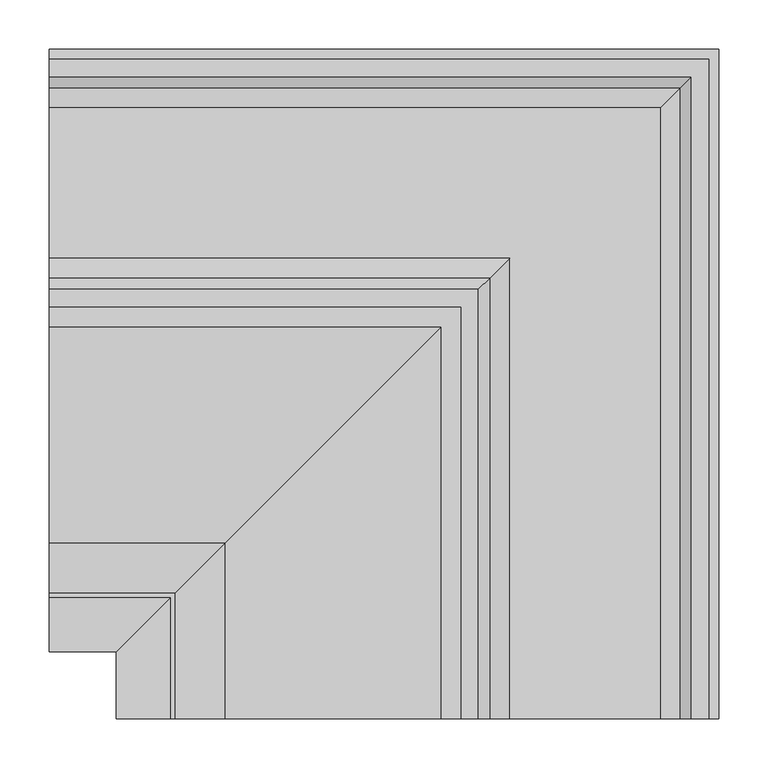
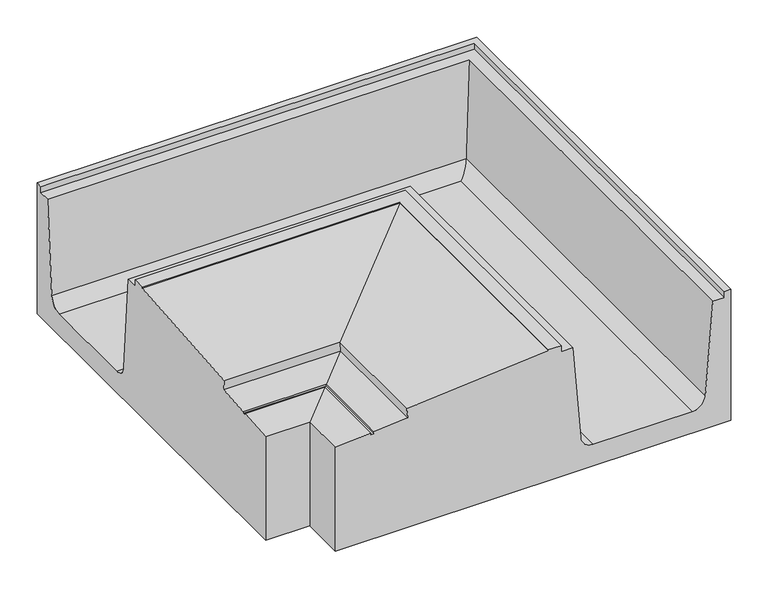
"""IFC4 building model written with IfcOpenShell, lengths in millimetres: proxy geometry, ROSA GRES_RS 911 Esquina Ángulo Interior : Bloque RS 911_Esquina Ángulo Interior."""

from ifc_helpers import new_model, si_unit, frame, origin, place, context, project, spatial, polyline, circle_curve, ellipse_curve, source, transform, mapped, element, save
from ifc_brep_helpers import plane_surface, revolved_surface, advanced_brep


def generic_models_6b054df1(model_context):
    return source(origin(), model_context, "Body", "AdvancedBrep", [
        advanced_brep(
        [(-55.7703405, 598.836227, 206.3460936), (-55.7703405, 616.836227, 206.3460936), (-55.7703405, 616.836227, 216.3460936), (-55.7703405, 626.836227, 216.3460936), (-55.7703405, 626.836227, 1.7539108), (-55.7703405, 12.836227, 1.7539108), (-55.7703405, 12.836227, 171.9333029), (-55.7703405, 67.836227, 176.4100471), (-55.7703405, 67.836227, 173.8170239), (-55.7703405, 72.836227, 173.8170239), (-55.7703405, 72.836227, 176.8170239), (-55.7703405, 125.1172881, 181.0724591), (-55.7703405, 123.836227, 196.8112099), (-55.7703405, 343.836227, 214.7181867), (-55.7703405, 343.836227, 216.3460936), (-55.7703405, 363.836227, 216.3460936), (-55.7703405, 363.836227, 206.3460936), (-55.7703405, 381.836227, 206.3460936), (-55.7703405, 393.5484732, 55.2086635), (-55.7703405, 413.4886891, 36.7539108), (-55.7703405, 567.1837649, 36.7539108), (-55.7703405, 587.1239808, 55.2086635), (598.8, -55.7341135, 206.3460936), (587.0877538, -55.7341135, 55.2086635), (567.1475379, -55.7341135, 36.7539108), (413.4524621, -55.7341135, 36.7539108), (393.5122462, -55.7341135, 55.2086635), (381.8, -55.7341135, 206.3460936), (363.8, -55.7341135, 206.3460936), (363.8, -55.7341135, 216.3460936), (343.8, -55.7341135, 216.3460936), (343.8, -55.7341135, 214.7181867), (123.8, -55.7341135, 196.8112099), (125.0810611, -55.7341135, 181.0724591), (72.8, -55.7341135, 176.8170239), (72.8, -55.7341135, 173.8170239), (67.8, -55.7341135, 173.8170239), (67.8, -55.7341135, 176.4100471), (12.8, -55.7341135, 171.9333029), (12.8, -55.7341135, 1.7539108), (626.8, -55.7341135, 1.7539108), (626.8, -55.7341135, 216.3460936), (616.8, -55.7341135, 216.3460936), (616.8, -55.7341135, 206.3460936), (598.8, 598.836227, 206.3460936), (616.8, 616.836227, 206.3460936), (616.8, 616.836227, 216.3460936), (626.8, 626.836227, 216.3460936), (626.8, 626.836227, 1.7539108), (12.8, 12.836227, 1.7539108), (12.8, 12.836227, 171.9333029), (67.8, 67.836227, 176.4100471), (67.8, 67.836227, 173.8170239), (72.8, 72.836227, 173.8170239), (72.8, 72.836227, 176.8170239), (125.0810611, 125.1172881, 181.0724591), (123.8, 123.836227, 196.8112099), (343.8, 343.836227, 214.7181867), (343.8, 343.836227, 216.3460936), (363.8, 363.836227, 216.3460936), (363.8, 363.836227, 206.3460936), (381.8, 381.836227, 206.3460936), (393.5122462, 393.5484732, 55.2086635), (413.4524621, 413.4886891, 36.7539108), (567.1475379, 567.1837649, 36.7539108), (587.0877538, 587.1239808, 55.2086635)],
        [
            (0, 1),
            (1, 2),
            (2, 3),
            (3, 4),
            (4, 5),
            (5, 6),
            (6, 7),
            (7, 8),
            (8, 9),
            (9, 10),
            (10, 11),
            (11, 12),
            (12, 13),
            (13, 14),
            (14, 15),
            (15, 16),
            (16, 17),
            (17, 18),
            (18, 19, circle_curve(frame((-55.7703405, 413.4886891, 56.7539108), z_axis=(1.0, 0.0, 0.0), x_axis=(0.0, 1.0, 0.0)), 20.0)),
            (19, 20),
            (20, 21, circle_curve(frame((-55.7703405, 567.1837649, 56.7539108), z_axis=(1.0, 0.0, 0.0), x_axis=(0.0, 1.0, 0.0)), 20.0)),
            (21, 0),
            (22, 23),
            (23, 24, circle_curve(frame((567.1475379, -55.7341135, 56.7539108), z_axis=(0.0, 1.0, 0.0), x_axis=(1.0, 0.0, 0.0)), 20.0)),
            (24, 25),
            (25, 26, circle_curve(frame((413.4524621, -55.7341135, 56.7539108), z_axis=(0.0, 1.0, 0.0), x_axis=(1.0, 0.0, 0.0)), 20.0)),
            (26, 27),
            (27, 28),
            (28, 29),
            (29, 30),
            (30, 31),
            (31, 32),
            (32, 33),
            (33, 34),
            (34, 35),
            (35, 36),
            (36, 37),
            (37, 38),
            (38, 39),
            (39, 40),
            (40, 41),
            (41, 42),
            (42, 43),
            (43, 22),
            (0, 44),
            (44, 22),
            (43, 45),
            (45, 1),
            (45, 46),
            (46, 2),
            (46, 42),
            (41, 47),
            (47, 3),
            (47, 48),
            (48, 4),
            (48, 40),
            (39, 49),
            (49, 5),
            (49, 50),
            (50, 6),
            (50, 51),
            (51, 7),
            (51, 52),
            (52, 8),
            (52, 36),
            (35, 53),
            (53, 9),
            (53, 54),
            (54, 10),
            (54, 55),
            (55, 11),
            (55, 56),
            (56, 12),
            (56, 57),
            (57, 13),
            (57, 58),
            (58, 14),
            (58, 30),
            (29, 59),
            (59, 15),
            (59, 60),
            (60, 16),
            (60, 28),
            (27, 61),
            (61, 17),
            (61, 62),
            (62, 18),
            (62, 63, ellipse_curve(frame((413.4524621, 413.4886891, 56.7539108), z_axis=(0.7071067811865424, -0.7071067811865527, 0.0), x_axis=(0.7071067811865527, 0.7071067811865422, 0.0)), 28.2842712, 20.0)),
            (63, 19),
            (63, 25),
            (24, 64),
            (64, 20),
            (64, 65, ellipse_curve(frame((567.1475379, 567.1837649, 56.7539108), z_axis=(0.7071067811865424, -0.7071067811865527, 0.0), x_axis=(0.7071067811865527, 0.7071067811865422, 0.0)), 28.2842712, 20.0)),
            (65, 21),
            (65, 44),
            (38, 50),
            (37, 51),
            (34, 54),
            (33, 55),
            (32, 56),
            (31, 57),
            (26, 62),
            (23, 65),
        ],
        [
            plane_surface(frame((-55.7703405, 558.2658865, 0.0), z_axis=(-1.0, 0.0, 0.0), x_axis=(0.0, 0.0, 1.0))),
            plane_surface(frame((558.2296595, -55.7341135, 0.0), z_axis=(0.0, -1.0, 0.0), x_axis=(0.0, 0.0, 1.0))),
            plane_surface(frame((-55.7703405, 598.836227, 206.3460936), z_axis=(0.0, 0.0, 1.0), x_axis=(1.0, 0.0, 0.0))),
            plane_surface(frame((-55.7703405, 616.836227, 206.3460936), z_axis=(0.0, -1.0, 0.0), x_axis=(1.0, 0.0, 0.0))),
            plane_surface(frame((-55.7703405, 616.836227, 216.3460936), z_axis=(0.0, 0.0, 1.0), x_axis=(1.0, 0.0, 0.0))),
            plane_surface(frame((-55.7703405, 626.836227, 216.3460936), z_axis=(0.0, 1.0, 0.0), x_axis=(1.0, 0.0, 0.0))),
            plane_surface(frame((-55.7703405, 626.836227, 1.7539108), z_axis=(0.0, 0.0, -1.0), x_axis=(1.0, 0.0, 0.0))),
            plane_surface(frame((-55.7703405, 12.836227, 1.7539108), z_axis=(0.0, -1.0, 0.0), x_axis=(1.0, 0.0, 0.0))),
            plane_surface(frame((-55.7703405, 12.836227, 171.9333029), z_axis=(0.0, -0.08112705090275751, 0.9967037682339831), x_axis=(1.0, 0.0, 0.0))),
            plane_surface(frame((-55.7703405, 67.836227, 176.4100471), z_axis=(0.0, 1.0, 0.0), x_axis=(1.0, 0.0, 0.0))),
            plane_surface(frame((-55.7703405, 67.836227, 173.8170239), z_axis=(0.0, 0.0, 1.0), x_axis=(1.0, 0.0, 0.0))),
            plane_surface(frame((-55.7703405, 72.836227, 173.8170239), z_axis=(0.0, -1.0, 0.0), x_axis=(1.0, 0.0, 0.0))),
            plane_surface(frame((-55.7703405, 72.836227, 176.8170239), z_axis=(0.0, -0.08112705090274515, 0.9967037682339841), x_axis=(1.0, 0.0, 0.0))),
            plane_surface(frame((-55.7703405, 125.1172881, 181.0724591), z_axis=(0.0, -0.9967037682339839, -0.08112705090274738), x_axis=(1.0, 0.0, 0.0))),
            plane_surface(frame((-55.7703405, 123.836227, 196.8112099), z_axis=(0.0, -0.08112705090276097, 0.9967037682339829), x_axis=(1.0, 0.0, 0.0))),
            plane_surface(frame((-55.7703405, 343.836227, 214.7181867), z_axis=(0.0, -1.0, 0.0), x_axis=(1.0, 0.0, 0.0))),
            plane_surface(frame((-55.7703405, 343.836227, 216.3460936), z_axis=(0.0, 0.0, 1.0), x_axis=(1.0, 0.0, 0.0))),
            plane_surface(frame((-55.7703405, 363.836227, 216.3460936), z_axis=(0.0, 1.0, 0.0), x_axis=(1.0, 0.0, 0.0))),
            plane_surface(frame((-55.7703405, 363.836227, 206.3460936), z_axis=(0.0, 0.0, 1.0), x_axis=(1.0, 0.0, 0.0))),
            plane_surface(frame((-55.7703405, 381.836227, 206.3460936), z_axis=(0.0, 0.9970107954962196, 0.07726236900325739), x_axis=(1.0, 0.0, 0.0))),
            revolved_surface(polyline([(433.4524620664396, 433.4886891, 56.7539108), (-55.7703405, 433.4886891, 56.7539108)]), (-55.7703405, 413.4886891, 56.7539108), (1.0, 0.0, 0.0)),
            plane_surface(frame((-55.7703405, 413.4886891, 36.7539108), z_axis=(0.0, 0.0, 1.0), x_axis=(1.0, 0.0, 0.0))),
            revolved_surface(polyline([(587.1475378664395, 587.1837649, 56.7539108), (-55.7703405, 587.1837649, 56.7539108)]), (-55.7703405, 567.1837649, 56.7539108), (1.0, 0.0, 0.0)),
            plane_surface(frame((-55.7703405, 587.1239808, 55.2086635), z_axis=(0.0, -0.9970107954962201, 0.0772623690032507), x_axis=(1.0, 0.0, 0.0))),
            plane_surface(frame((616.8, 616.836227, 206.3460936), z_axis=(-1.0, 0.0, 0.0), x_axis=(0.0, -1.0, 0.0))),
            plane_surface(frame((626.8, 626.836227, 216.3460936), z_axis=(1.0, 0.0, 0.0), x_axis=(0.0, -1.0, 0.0))),
            plane_surface(frame((12.8, 12.836227, 1.7539108), z_axis=(-1.0, 0.0, 0.0), x_axis=(0.0, -1.0, 0.0))),
            plane_surface(frame((12.8, 12.836227, 171.9333029), z_axis=(-0.08112705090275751, 0.0, 0.9967037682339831), x_axis=(0.0, -1.0, 0.0))),
            plane_surface(frame((67.8, 67.836227, 176.4100471), z_axis=(1.0, 0.0, 0.0), x_axis=(0.0, -1.0, 0.0))),
            plane_surface(frame((72.8, 72.836227, 173.8170239), z_axis=(-1.0, 0.0, 0.0), x_axis=(0.0, -1.0, 0.0))),
            plane_surface(frame((72.8, 72.836227, 176.8170239), z_axis=(-0.08112705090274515, 0.0, 0.9967037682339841), x_axis=(0.0, -1.0, 0.0))),
            plane_surface(frame((125.0810611, 125.1172881, 181.0724591), z_axis=(-0.9967037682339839, 0.0, -0.08112705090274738), x_axis=(0.0, -1.0, 0.0))),
            plane_surface(frame((123.8, 123.836227, 196.8112099), z_axis=(-0.08112705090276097, 0.0, 0.9967037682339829), x_axis=(0.0, -1.0, 0.0))),
            plane_surface(frame((343.8, 343.836227, 214.7181867), z_axis=(-1.0, 0.0, 0.0), x_axis=(0.0, -1.0, 0.0))),
            plane_surface(frame((363.8, 363.836227, 216.3460936), z_axis=(1.0, 0.0, 0.0), x_axis=(0.0, -1.0, 0.0))),
            plane_surface(frame((381.8, 381.836227, 206.3460936), z_axis=(0.9970107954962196, 0.0, 0.07726236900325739), x_axis=(0.0, -1.0, 0.0))),
            revolved_surface(polyline([(433.4524621, -55.734113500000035, 56.7539108), (433.4524621, 433.4886890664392, 56.7539108)]), (413.4524621, 558.2658865, 56.7539108), (0.0, -1.0, 0.0)),
            revolved_surface(polyline([(587.1475379, -55.734113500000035, 56.7539108), (587.1475379, 587.1837648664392, 56.7539108)]), (567.1475379, 558.2658865, 56.7539108), (0.0, -1.0, 0.0)),
            plane_surface(frame((587.0877538, 587.1239808, 55.2086635), z_axis=(-0.9970107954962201, 0.0, 0.0772623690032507), x_axis=(0.0, -1.0, 0.0))),
        ],
        [
            (0, [[1, 2, 3, 4, 5, 6, 7, 8, 9, 10, 11, 12, 13, 14, 15, 16, 17, 18, 19, 20, 21, 22]]),
            (1, [[23, 24, 25, 26, 27, 28, 29, 30, 31, 32, 33, 34, 35, 36, 37, 38, 39, 40, 41, 42, 43, 44]]),
            (2, [[-1, 45, 46, -44, 47, 48]]),
            (3, [[-2, -48, 49, 50]]),
            (4, [[-3, -50, 51, -42, 52, 53]]),
            (5, [[-4, -53, 54, 55]]),
            (6, [[-5, -55, 56, -40, 57, 58]]),
            (7, [[-6, -58, 59, 60]]),
            (8, [[-7, -60, 61, 62]]),
            (9, [[-8, -62, 63, 64]]),
            (10, [[-9, -64, 65, -36, 66, 67]]),
            (11, [[-10, -67, 68, 69]]),
            (12, [[-11, -69, 70, 71]]),
            (13, [[-12, -71, 72, 73]]),
            (14, [[-13, -73, 74, 75]]),
            (15, [[-14, -75, 76, 77]]),
            (16, [[-15, -77, 78, -30, 79, 80]]),
            (17, [[-16, -80, 81, 82]]),
            (18, [[-17, -82, 83, -28, 84, 85]]),
            (19, [[-18, -85, 86, 87]]),
            (20, [[-19, -87, 88, 89]]),
            (21, [[-20, -89, 90, -25, 91, 92]]),
            (22, [[-21, -92, 93, 94]]),
            (23, [[-22, -94, 95, -45]]),
            (24, [[-49, -47, -43, -51]]),
            (25, [[-54, -52, -41, -56]]),
            (26, [[-59, -57, -39, 96]]),
            (27, [[-61, -96, -38, 97]]),
            (28, [[-63, -97, -37, -65]]),
            (29, [[-68, -66, -35, 98]]),
            (30, [[-70, -98, -34, 99]]),
            (31, [[-72, -99, -33, 100]]),
            (32, [[-74, -100, -32, 101]]),
            (33, [[-76, -101, -31, -78]]),
            (34, [[-81, -79, -29, -83]]),
            (35, [[-86, -84, -27, 102]]),
            (36, [[-88, -102, -26, -90]]),
            (37, [[-93, -91, -24, 103]]),
            (38, [[-95, -103, -23, -46]]),
        ],
    ),
    ])


if __name__ == "__main__":
    model = new_model("IFC4")
    model_context = context("Model", 3, world=origin())
    ifc_project = project(units=[si_unit("LENGTHUNIT", "METRE", prefix="MILLI")], contexts=[model_context])
    site = spatial("IfcSite", under=ifc_project)
    building = spatial("IfcBuilding", under=site)
    placement = place(None, origin())
    generic_models_shape = generic_models_6b054df1(model_context)
    element("IfcBuildingElementProxy", 1, Name="ROSA GRES_RS 911 Esquina Ángulo Interior : Bloque RS 911_Esquina Ángulo Interior", ObjectType="ROSA GRES_RS 911 Esquina Ángulo Interior : Bloque RS 911_Esquina Ángulo Interior", at=placement, inside=building, context=model_context, shape_type="MappedRepresentation", body=[
        mapped(generic_models_shape, transform((0.0, 0.0, 0.0), x_axis=(1.0, 0.0, 0.0), y_axis=(0.0, 1.0, 0.0), z_axis=(0.0, 0.0, 1.0))),
    ])
    save(model, "model.ifc")
